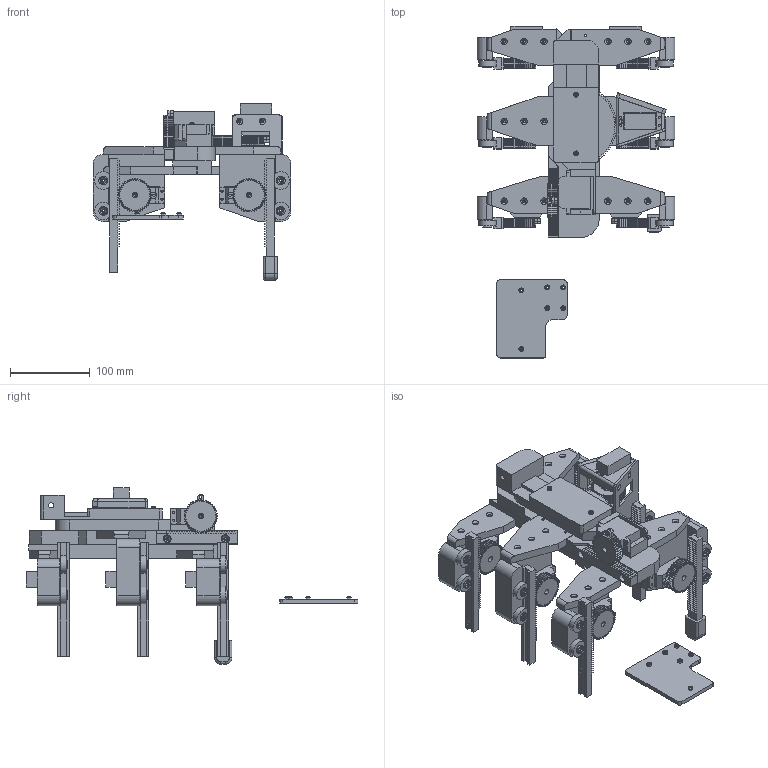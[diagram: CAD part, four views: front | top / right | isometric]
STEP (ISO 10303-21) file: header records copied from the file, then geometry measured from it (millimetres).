
FILE_DESCRIPTION(/* description */ (''),/* implementation_level */ '2;1');
FILE_NAME(/* name */ '4bb01e32-dc81-477d-ac96-f4215290bb14.stp',/* time_stamp */ '2026-05-10T16:47:20Z',/* author */ (''),/* organization */ (''),/* preprocessor_version */ 'ST-DEVELOPER v20.1',/* originating_system */ 'Autodesk Translation Framework v15.8.0.0',/* authorisation */ '');
FILE_SCHEMA (('AUTOMOTIVE_DESIGN { 1 0 10303 214 3 1 1 }'));
Products named in the file (10): Hexapod_02; bottomDeck; Hexapod_RackPinion v10; Hexapod_RackPinion v10(Mirror) (1); stub; topDeck; Hexapod_RackPinion v10(Mirror)(Mirror); Hexapod_RackPinion v10(Mirror); 2026-04-13-15-20-45-761; 2026-04-15-08-44-09-761
Assembly tree (11 placements, depth 4):
  Hexapod_02
    bottomDeck
      Hexapod_RackPinion v10  x2
      Hexapod_RackPinion v10(Mirror) (1)
    stub
      topDeck
        Hexapod_RackPinion v10(Mirror)  x2
        Hexapod_RackPinion v10(Mirror)(Mirror)
    2026-04-13-15-20-45-761
    2026-04-15-08-44-09-761
Bounding box: 248 x 416 x 221.03 mm (x, y, z)
Volume: 1888198.2 mm3; surface area: 570399.6 mm2
Topology: 77 solids, 77 shells, 3574 faces, 10026 edges, 6659 vertices
Faces by surface type: plane 1631, cylinder 1167, bspline 710, cone 62, torus 4
Full cylindrical faces by diameter (mm): 2.8 x125, 3 x8, 3.2 x16, 4 x54, 4.2 x3, 6 x24, 6.5 x1, 6.91 x8, 7.7 x12, 8 x12, 10 x2, 11 x12, 18 x1, 22 x12
Entity records: 440629 total; most frequent: CARTESIAN_POINT 373228, ORIENTED_EDGE 15320, DIRECTION 12320, EDGE_CURVE 7660, VERTEX_POINT 5083, AXIS2_PLACEMENT_3D 4127, LINE 4066, VECTOR 4066
